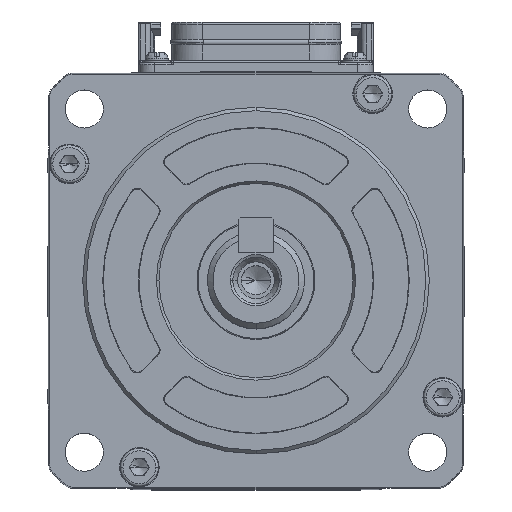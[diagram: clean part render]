
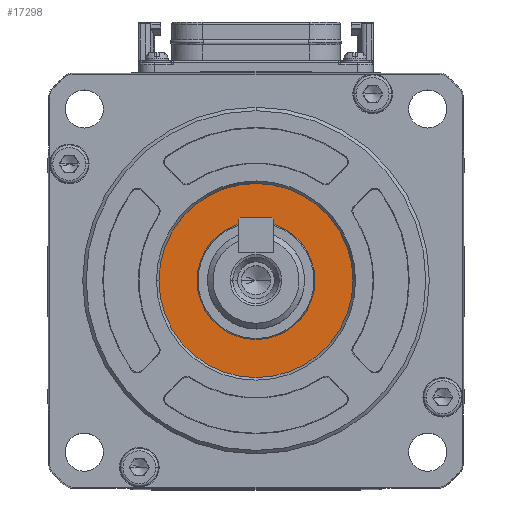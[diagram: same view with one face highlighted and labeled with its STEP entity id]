
A CAD part, top view. The second image highlights one B-rep face of the part: STEP entity #17298.
In plain terms, the highlighted planar face has unit normal (0, 0, 1).
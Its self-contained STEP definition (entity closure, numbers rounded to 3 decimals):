
#3273 = AXIS2_PLACEMENT_3D ( 'NONE', #71869, #24777, #45482 ) ;
#4096 = DIRECTION ( 'NONE',  ( 0., 1., 0. ) ) ;
#4677 = DIRECTION ( 'NONE',  ( 0., 1., 0. ) ) ;
#6072 = AXIS2_PLACEMENT_3D ( 'NONE', #75811, #34724, #82952 ) ;
#10208 = CARTESIAN_POINT ( 'NONE',  ( 0., 0., 44.347 ) ) ;
#13355 = AXIS2_PLACEMENT_3D ( 'NONE', #80260, #25156, #4096 ) ;
#16846 = CIRCLE ( 'NONE', #87377, 8.5 ) ;
#17298 = ADVANCED_FACE ( 'NONE', ( #47502, #26069 ), #17850, .T. ) ;
#17850 = PLANE ( 'NONE',  #3273 ) ;
#21292 = EDGE_CURVE ( 'NONE', #82045, #81917, #43115, .T. ) ;
#24777 = DIRECTION ( 'NONE',  ( 0., 0., 1. ) ) ;
#25156 = DIRECTION ( 'NONE',  ( 0., 0., -1. ) ) ;
#26069 = FACE_OUTER_BOUND ( 'NONE', #74773, .T. ) ;
#28084 = EDGE_CURVE ( 'NONE', #76033, #29549, #16846, .T. ) ;
#29549 = VERTEX_POINT ( 'NONE', #62981 ) ;
#32915 = ORIENTED_EDGE ( 'NONE', *, *, #51227, .F. ) ;
#34724 = DIRECTION ( 'NONE',  ( 0., 0., -1. ) ) ;
#37014 = CARTESIAN_POINT ( 'NONE',  ( 0., -14., 44.347 ) ) ;
#37355 = CIRCLE ( 'NONE', #13355, 14. ) ;
#39816 = CARTESIAN_POINT ( 'NONE',  ( 0., 0., 44.347 ) ) ;
#40378 = ORIENTED_EDGE ( 'NONE', *, *, #28084, .F. ) ;
#43115 = CIRCLE ( 'NONE', #6072, 14. ) ;
#43613 = CARTESIAN_POINT ( 'NONE',  ( -8.5, 0., 44.347 ) ) ;
#43859 = AXIS2_PLACEMENT_3D ( 'NONE', #39816, #45845, #4677 ) ;
#44911 = ORIENTED_EDGE ( 'NONE', *, *, #52410, .F. ) ;
#45482 = DIRECTION ( 'NONE',  ( 0., 1., 0. ) ) ;
#45845 = DIRECTION ( 'NONE',  ( 0., 0., 1. ) ) ;
#47502 = FACE_BOUND ( 'NONE', #53826, .T. ) ;
#49894 = CARTESIAN_POINT ( 'NONE',  ( 0., 14., 44.347 ) ) ;
#51227 = EDGE_CURVE ( 'NONE', #81917, #82045, #37355, .T. ) ;
#52410 = EDGE_CURVE ( 'NONE', #29549, #76033, #85383, .T. ) ;
#53826 = EDGE_LOOP ( 'NONE', ( #40378, #44911 ) ) ;
#62981 = CARTESIAN_POINT ( 'NONE',  ( 8.5, 0., 44.347 ) ) ;
#65977 = DIRECTION ( 'NONE',  ( 0., 1., 0. ) ) ;
#71869 = CARTESIAN_POINT ( 'NONE',  ( 0., 0., 44.347 ) ) ;
#74773 = EDGE_LOOP ( 'NONE', ( #32915, #86529 ) ) ;
#75811 = CARTESIAN_POINT ( 'NONE',  ( 0., 0., 44.347 ) ) ;
#76033 = VERTEX_POINT ( 'NONE', #43613 ) ;
#78852 = DIRECTION ( 'NONE',  ( 0., 0., 1. ) ) ;
#80260 = CARTESIAN_POINT ( 'NONE',  ( 0., 0., 44.347 ) ) ;
#81917 = VERTEX_POINT ( 'NONE', #49894 ) ;
#82045 = VERTEX_POINT ( 'NONE', #37014 ) ;
#82952 = DIRECTION ( 'NONE',  ( 0., 1., 0. ) ) ;
#85383 = CIRCLE ( 'NONE', #43859, 8.5 ) ;
#86529 = ORIENTED_EDGE ( 'NONE', *, *, #21292, .F. ) ;
#87377 = AXIS2_PLACEMENT_3D ( 'NONE', #10208, #78852, #65977 ) ;
